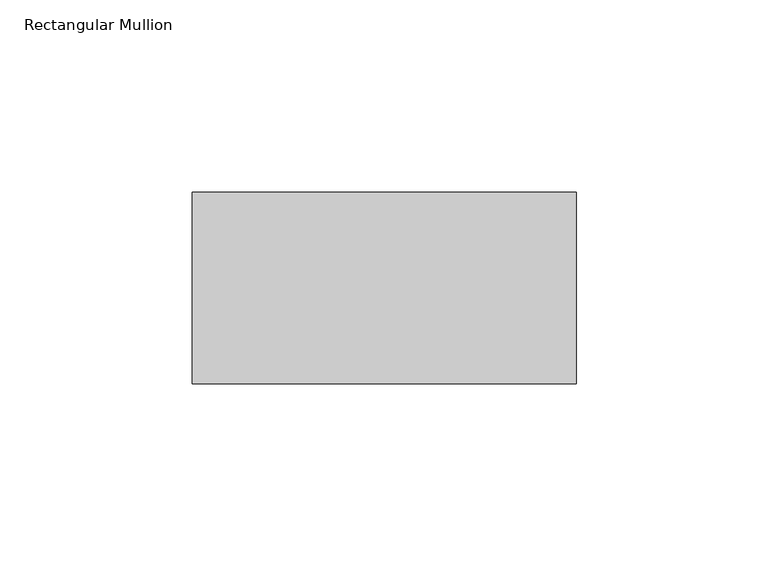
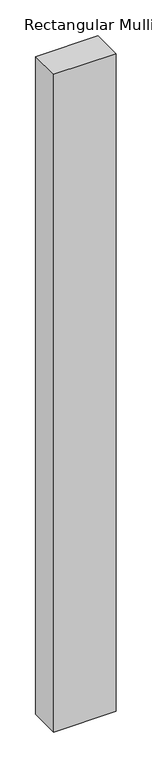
"""IFC4 building model written with IfcOpenShell, lengths in millimetres: member geometry, Rectangular Mullion : Mullion_Curtain Wall_Generic Showcase_50x100mm."""

from ifc_helpers import new_model, si_unit, frame, origin, place, context, project, spatial, polyline, outline, extrude, source, transform, mapped, element, save


def rectangular_mullion_7d0be01b(model_context):
    return source(origin(), model_context, "Body", "SweptSolid", [
        extrude(outline(polyline([(0.0, 50.0), (0.0, 0.0), (-100.0, 0.0), (-100.0, 50.0), (0.0, 50.0)])), frame((0.0, 0.0, -1116.6666667), z_axis=(0.0, 0.0, 1.0), x_axis=(1.0, 0.0, 0.0)), (0.0, 0.0, 1.0), 1116.6666667),
    ])


if __name__ == "__main__":
    model = new_model("IFC4")
    model_context = context("Model", 3, world=origin())
    ifc_project = project(units=[si_unit("LENGTHUNIT", "METRE", prefix="MILLI")], contexts=[model_context])
    site = spatial("IfcSite", under=ifc_project)
    building = spatial("IfcBuilding", under=site)
    placement = place(None, origin())
    rectangular_mullion_shape = rectangular_mullion_7d0be01b(model_context)
    element("IfcMember", 1, ObjectType="Rectangular Mullion : Mullion_Curtain Wall_Generic Showcase_50x100mm", at=placement, inside=building, context=model_context, shape_type="MappedRepresentation", body=[
        mapped(rectangular_mullion_shape, transform((0.0, 0.0, 0.0), x_axis=(1.0, 0.0, 0.0), y_axis=(0.0, 1.0, 0.0), z_axis=(0.0, 0.0, 1.0))),
    ])
    save(model, "model.ifc")
